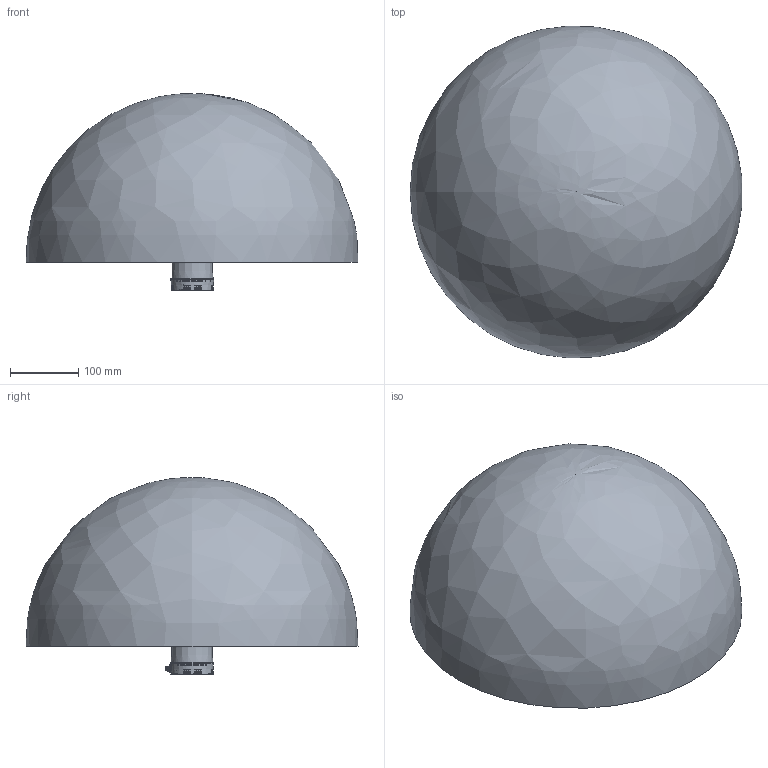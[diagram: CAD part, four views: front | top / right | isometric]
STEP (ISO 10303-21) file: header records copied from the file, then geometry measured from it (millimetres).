
FILE_DESCRIPTION(/* description */ (''),/* implementation_level */ '2;1');
FILE_NAME(/* name */ 'JT128-雷达整机图纸-侧出线-20250818-V2.stp',/* time_stamp */ '2025-08-18T21:47:01+08:00',/* author */ (''),/* organization */ (''),/* preprocessor_version */ 'ST-DEVELOPER v16.7',/* originating_system */ 'SIEMENS PLM Software NX 1934',/* authorisation */ '');
FILE_SCHEMA (('AUTOMOTIVE_DESIGN { 1 0 10303 214 3 1 1 1 }'));
Products named in the file (1): zhan0388E6AA0lyb
Bounding box: 484.65 x 485.08 x 287.58 mm (x, y, z)
Volume: 29751082.3 mm3; surface area: 604419.6 mm2
Topology: 9 solids, 28 shells, 1278 faces, 3248 edges, 2001 vertices
Faces by surface type: cylinder 443, plane 264, bspline 259, cone 155, torus 112, sphere 42, extrusion 2, revolution 1
Full cylindrical faces by diameter (mm): 2.5 x3, 2.6 x1, 7 x1, 8 x1, 56.799 x1, 56.8 x1, 59.8 x2
Entity records: 55075 total; most frequent: CARTESIAN_POINT 22873, ORIENTED_EDGE 6182, DIRECTION 5514, EDGE_CURVE 3091, AXIS2_PLACEMENT_3D 2266, VERTEX_POINT 1963, EDGE_LOOP 1442, ADVANCED_FACE 1278
